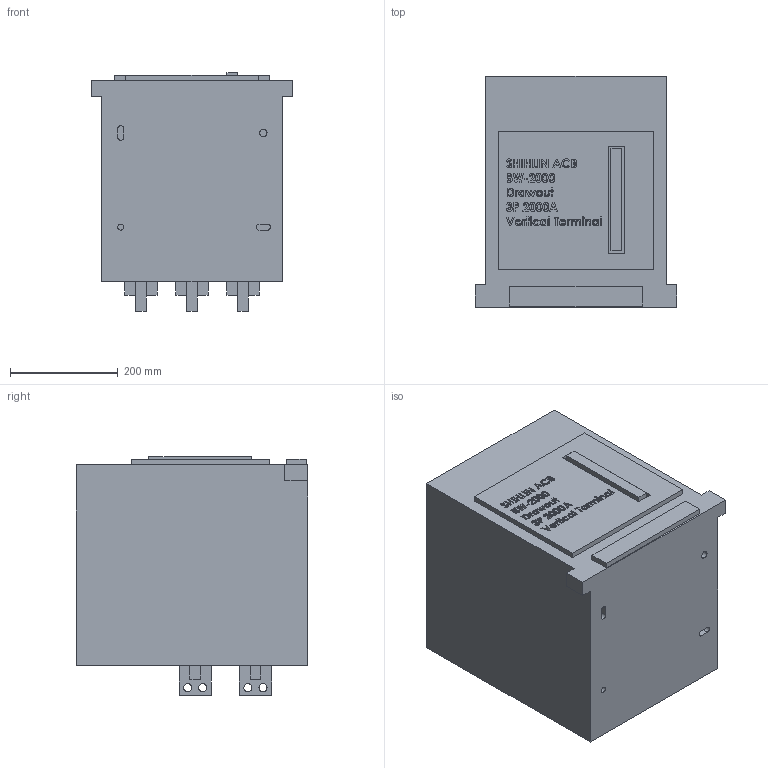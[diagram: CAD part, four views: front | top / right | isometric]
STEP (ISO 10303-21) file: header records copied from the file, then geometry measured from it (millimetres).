
FILE_DESCRIPTION (( 'STEP AP203' ), '1' );
FILE_NAME ('BW-2000-Drawout-3P-2000A-Vertical Terminal.STEP', '2016-11-03T01:06:17', ( '' ), ( '' ), 'SwSTEP 2.0', 'SolidWorks 2015', '' );
FILE_SCHEMA (( 'CONFIG_CONTROL_DESIGN' ));
Length unit declared in the file: millimetre
Products named in the file (1): BW-2000-Drawout-3P-2000A-Vertical Terminal
Bounding box: 375 x 430 x 443.5 mm (x, y, z)
Volume: 55111553.5 mm3; surface area: 996197.6 mm2
Topology: 1 solids, 1 shells, 734 faces, 1947 edges, 1298 vertices
Faces by surface type: plane 465, bspline 236, cylinder 33
Entity records: 35446 total; most frequent: CARTESIAN_POINT 18616, ORIENTED_EDGE 3894, DIRECTION 2539, EDGE_CURVE 1947, VECTOR 1409, LINE 1409, VERTEX_POINT 1298, EDGE_LOOP 841
